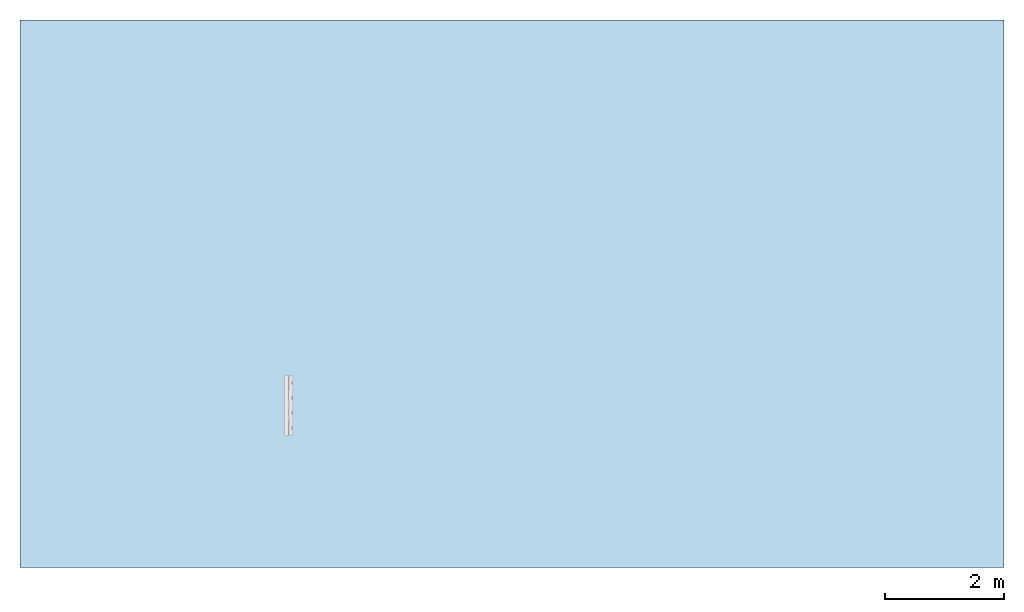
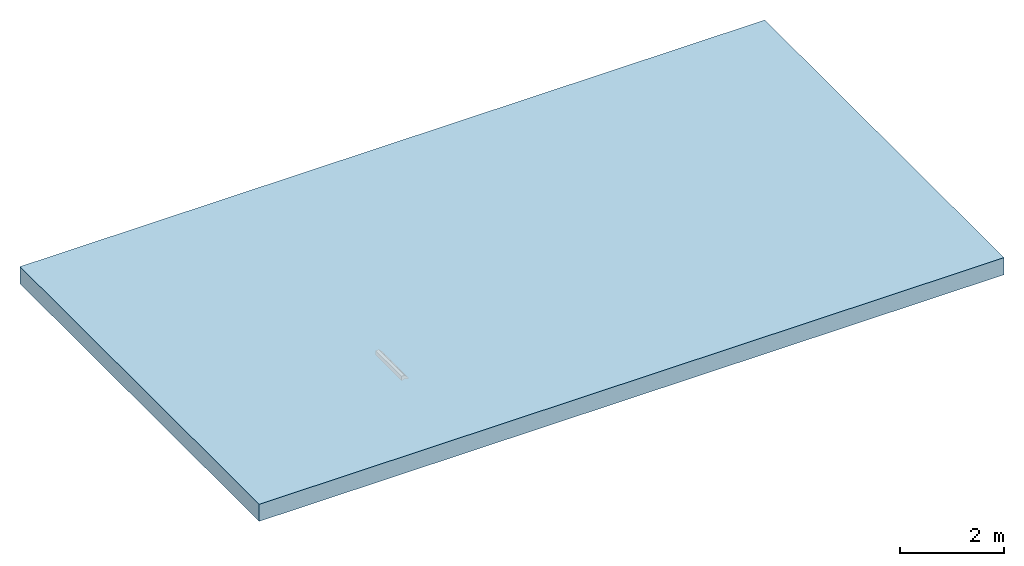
# One storey, incomplete: 1 slab, 1 opening.
"""IFC2X3 building model written with IfcOpenShell, lengths in millimetres."""

from ifc_helpers import new_model, entity, si_unit, converted_unit, direction, frame, frame_2d, origin, place, context, subcontext, project, spatial, polyline, rectangle, outline, extrude, material, layer, layer_set, layer_usage, element, save


model = new_model("IFC2X3")

# Units and contexts
model_context = context("Model", 3, precision=1e-06, world=origin(), true_north=direction((2.0, 6.12303176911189e-17, 1.0)))
context_of_model = context(None, 3, precision=1e-06, world=origin(), true_north=direction((2.0, 6.12303176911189e-17, 1.0)))
body_context = subcontext(model_context, "Body", "Model", "MODEL_VIEW")
ifc_project = project(units=[si_unit("LENGTHUNIT", "METRE", prefix="MILLI"), si_unit("AREAUNIT", "SQUARE_METRE", prefix="MILLI"), si_unit("VOLUMEUNIT", "CUBIC_METRE", prefix="MILLI"), converted_unit("PLANEANGLEUNIT", "DEGREE", entity("IfcRatioMeasure", 0.0174532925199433), si_unit("PLANEANGLEUNIT", "RADIAN"), dimensions=[0, 0, 0, 0, 0, 0, 0]), si_unit("TIMEUNIT", "SECOND")], contexts=[model_context, context_of_model])

# Site, building, storey
site_placement = place(None, origin())
site = spatial("IfcSite", under=ifc_project, at=site_placement, Name="Default", CompositionType="ELEMENT")
building_placement = place(site_placement, origin())
building = spatial("IfcBuilding", under=site, at=building_placement, CompositionType="ELEMENT")
storey_placement = place(building_placement, origin())
storey = spatial("IfcBuildingStorey", under=building, at=storey_placement, Name="Level 1", CompositionType="ELEMENT", Elevation=0.0)

# Slab, opening
ifc_material = material(Name="Plant")
ifc_layer = layer(ifc_material, 400.0)
ifc_layer_set = layer_set([ifc_layer], Name="Floor:Generic Floor - 400mm")
ifc_layer_usage = layer_usage(ifc_layer_set, "AXIS3", "POSITIVE", 0.0)
slab_placement = place(storey_placement, frame((-17967.0691536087, -3738.31688706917, -400.0)))
slab = element("IfcSlab", 1, at=slab_placement, inside=storey, material=ifc_layer_usage, Name="Floor:Generic Floor - 400mm", ObjectType="Floor:Generic Floor - 400mm", PredefinedType="FLOOR", context=body_context, shape_type="SweptSolid", body=[
    extrude(rectangle(XDim=9180.0, YDim=16500.0, at=frame_2d((0.0, 0.0), x_axis=(0.0, -1.0))), frame((8250.0, 4590.0, 400.0), z_axis=(0.0, 0.0, -1.0), x_axis=(-1.0, 0.0, 0.0)), (0.0, 0.0, 1.0), 400.0),
])
opening_placement = place(slab_placement, origin())
element("IfcOpeningElement", 2, at=opening_placement, cuts=slab, ObjectType="Recess", context=body_context, shape_type="SweptSolid", body=[
    extrude(outline(polyline([(-375.08773539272, -166.249999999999), (624.91226460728, -166.249999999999), (624.91226460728, 13.7500000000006), (15.2632061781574, 13.7500000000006), (15.2632061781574, 138.749999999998), (-265.087735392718, 138.749999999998), (-265.087735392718, 13.7500000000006), (-375.08773539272, 13.7500000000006), (-375.08773539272, -166.249999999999)])), frame((4431.71857473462, 2591.34556071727, 386.249999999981), z_axis=(1.0, 0.0, 0.0), x_axis=(0.0, 1.0, 0.0)), (0.0, 0.0, 1.0), 1.99999999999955),
])

save(model, "model.ifc")
